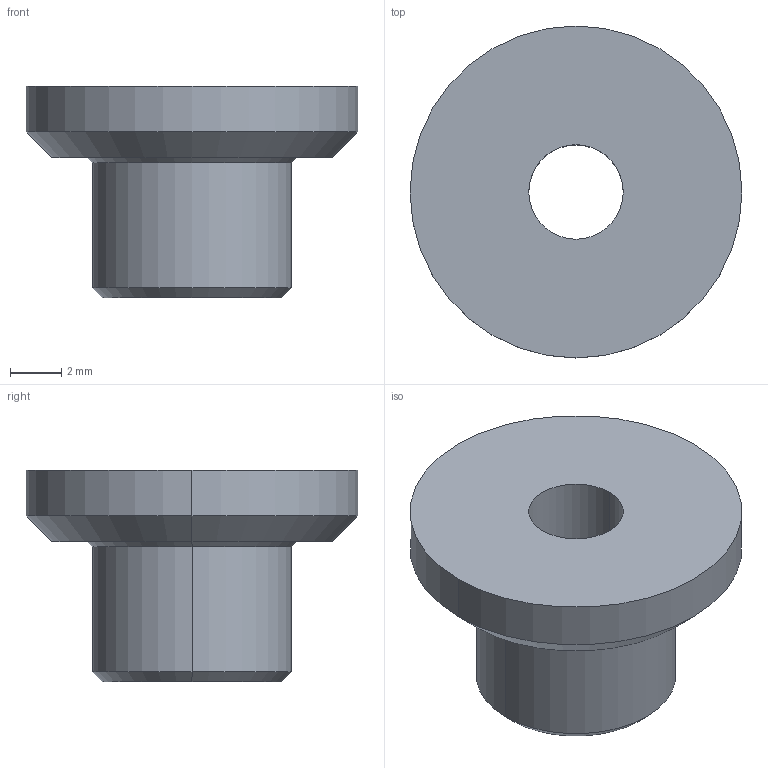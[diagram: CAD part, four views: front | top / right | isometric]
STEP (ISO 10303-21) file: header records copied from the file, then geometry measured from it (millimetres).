
FILE_DESCRIPTION (( 'STEP AP214' ), '1' );
FILE_NAME ('um2feeder_bearingbushing.STEP', '2014-10-26T06:41:34', ( 'Frank' ), ( '' ), 'SwSTEP 2.0', 'SolidWorks 2013', '' );
FILE_SCHEMA (( 'AUTOMOTIVE_DESIGN' ));
Length unit declared in the file: millimetre
Products named in the file (1): um2feeder_bearingbushing
Bounding box: 13 x 13 x 8.3 mm (x, y, z)
Volume: 523.5 mm3; surface area: 553.1 mm2
Topology: 1 solids, 1 shells, 17 faces, 34 edges, 20 vertices
Faces by surface type: cone 8, cylinder 6, plane 3
Entity records: 484 total; most frequent: DIRECTION 90, CARTESIAN_POINT 72, ORIENTED_EDGE 68, AXIS2_PLACEMENT_3D 38, EDGE_CURVE 34, VERTEX_POINT 20, CIRCLE 20, EDGE_LOOP 20
